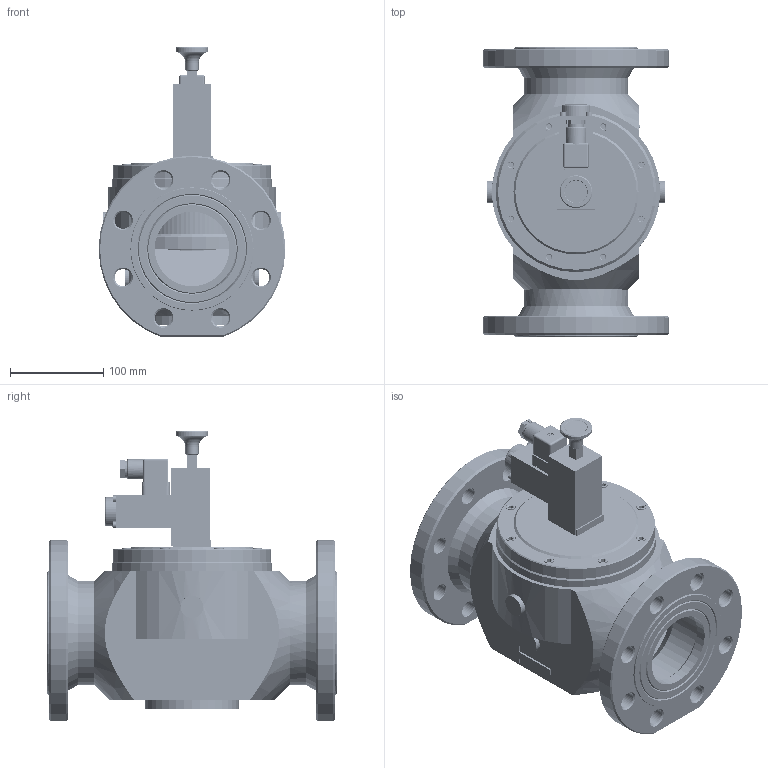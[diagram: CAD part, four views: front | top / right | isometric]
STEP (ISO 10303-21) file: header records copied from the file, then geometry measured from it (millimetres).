
FILE_DESCRIPTION( ( 'Unknown' ), '1' );
FILE_NAME( 'D:/Wyroby/Widoki gabarytowe/Zawory ZB/ZB_80k/ZB_80k.stp', 'Unknown', ( 'Unknown' ), ( 'Unknown' ), 'XStep 1.0', 'Unknown', ' ' );
FILE_SCHEMA( ( 'CONFIG_CONTROL_DESIGN' ) );
Length unit declared in the file: millimetre
Products named in the file (76): Assem1; Wa_209_01_00; Wa_209_01_01; Z³¹cze_C18211G21; Gniazdo_wtykowe_B282; Wa_112_01_00; Wa_112_01_01; ElektromagnesZB_z_wtyczk¹; Wa_112_01_03bez_korków; cokó³_gniazda_wtykowego_B282; Wk³adka; Blaszka_uziemienia; Blaszka_fazy; Uszczelka_coko³u; Obudowa; Kostka; Uszczelka; Wkrêt_M3x30; Œruba_d³awika; Uszczelka_d³awika; Wa_209_01_01bez_ko³ka; Ko³ek 3x40; Wa_112_01_03bez_gniazda; Wa_080_01_01_001gotowe; Wa_112_01_01_002zaci從i黎y; Wa_080_01_02_003zaci從i黎a; Wa_080_01_02_002; Wa_209_02_00_008; Wa_209_02_00_007; Wa_209_01_00_001; Wa_209_01_00_002; Wa_209_01_00_003; Wa_209_01_00_004; Wa_209_01_00_005; W-039M3x9; Wa_209_01_00_007; ImbusM4x65; Wa_209_01_00_006彡i從i黎a7; Wa_209_01_00_011; Uzwojenie_Wa_209_01_02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
Bounding box: 200 x 310 x 310 mm (x, y, z)
Volume: 12860439.3 mm3; surface area: 3014144.8 mm2
Topology: 254 solids, 254 shells, 4876 faces, 11391 edges, 7417 vertices
Faces by surface type: plane 2699, cylinder 1369, cone 649, torus 120, sphere 29, bspline 10
Full cylindrical faces by diameter (mm): 1.6 x8, 2 x6, 2.1 x8, 2.459 x13, 2.5 x6, 3 x28, 3.2 x16, 3.242 x12, 3.5 x20, 4 x20, 4.5 x26, 4.917 x32, 5 x14, 5.2 x4, 5.5 x30, 6 x43, 6.1 x6, 6.2 x3, 6.5 x10, 6.6 x24, 6.647 x6, 7 x26, 7.5 x5, 8 x32, 8.1 x3, 8.4 x4, 9 x8, 10 x24, 11 x29, 12.5 x5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
Entity records: 39882 total; most frequent: CARTESIAN_POINT 10826, DIRECTION 5479, ORIENTED_EDGE 4348, EDGE_CURVE 2174, AXIS2_PLACEMENT_3D 2140, EDGE_LOOP 1959, VERTEX_POINT 1677, FACE_OUTER_BOUND 1501
